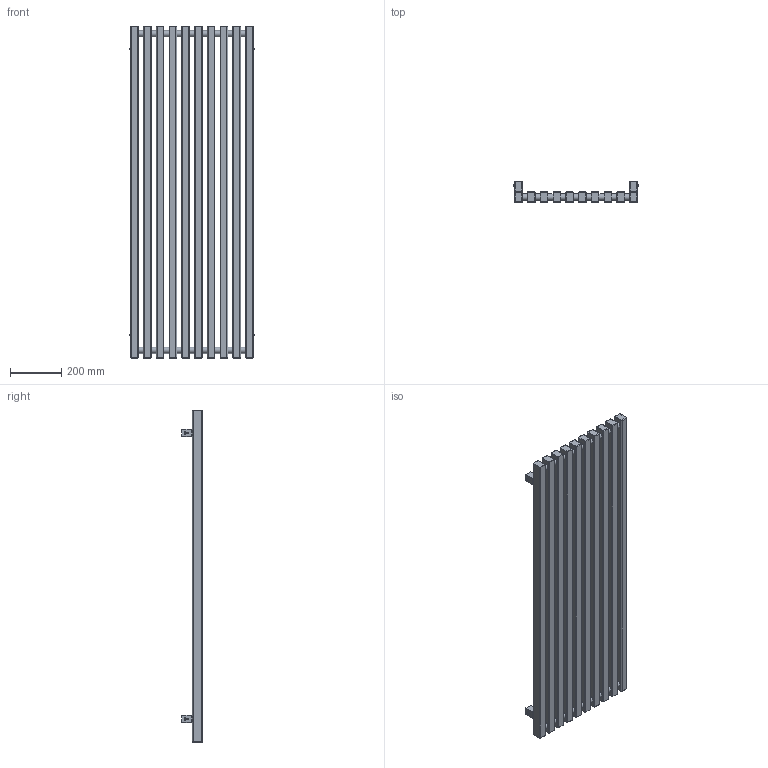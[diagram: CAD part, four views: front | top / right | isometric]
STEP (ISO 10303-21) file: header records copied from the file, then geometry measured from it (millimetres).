
FILE_DESCRIPTION((''),'2;1');
FILE_NAME('Z:\R\G\P\RGP029 - Grzejnik Triga ( ZET)\Work\Inventor\Triga v1.1\Marketing\AutoCad 3D\G-TR-XX-MK-XX-13-58-ZX.stp','2012-07-26T12:56:56',('DawPi'),(''),'Autodesk Inventor 2012','Autodesk Inventor 2012','');
FILE_SCHEMA(('AUTOMOTIVE_DESIGN { 1 0 10303 214 1 1 1 1 }'));
Length unit declared in the file: millimetre
Products named in the file (3): G-TR-XX-MK-XX-13-58-ZX; MMT42
Assembly tree (5 placements, depth 2):
  G-TR-XX-MK-XX-13-58-ZX
    G-TR-XX-MK-XX-13-58-ZX
    MMT42  x4
Bounding box: 486 x 82 x 1300 mm (x, y, z)
Volume: 15811151.7 mm3; surface area: 1818199 mm2
Topology: 5 solids, 5 shells, 485 faces, 1093 edges, 659 vertices
Faces by surface type: cylinder 197, plane 171, bspline 80, cone 24, torus 13
Full cylindrical faces by diameter (mm): 4.134 x4, 4.509 x4, 10 x4, 11.445 x1, 12 x4, 18.631 x2, 25 x18
Entity records: 15615 total; most frequent: CARTESIAN_POINT 7970, DIRECTION 1698, ORIENTED_EDGE 1452, EDGE_CURVE 726, AXIS2_PLACEMENT_3D 698, VERTEX_POINT 450, EDGE_LOOP 440, CIRCLE 420
